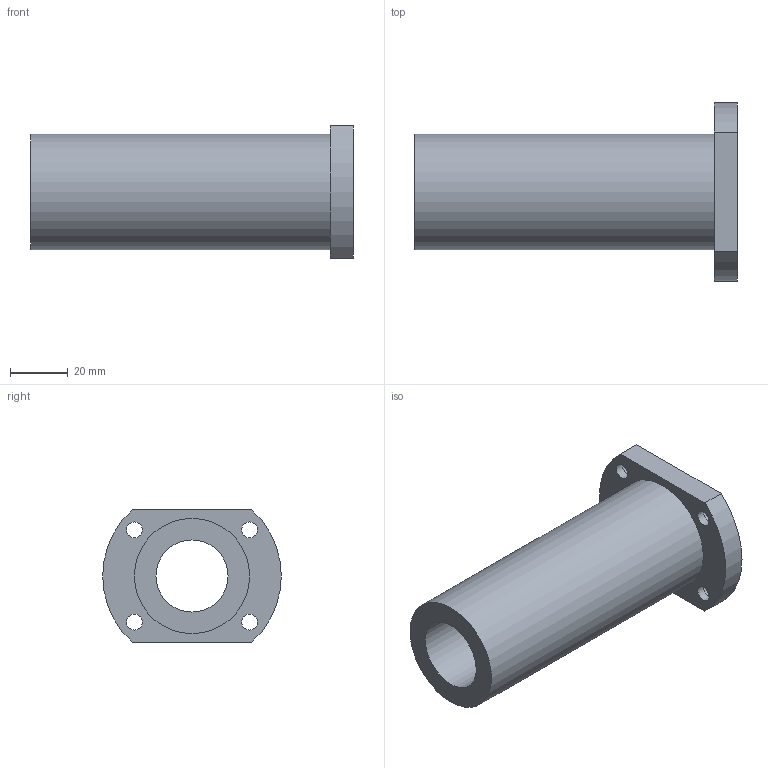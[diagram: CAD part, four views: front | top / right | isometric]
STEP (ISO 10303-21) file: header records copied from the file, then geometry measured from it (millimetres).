
FILE_DESCRIPTION(/* description */ ('Unknown'),/* implementation_level */ '2;1');
FILE_NAME(/* name */ 'LMH25LUU',/* time_stamp */ '2025-02-04T10:32:22+08:00',/* author */ ('Unknown'),/* organization */ ('Unknown'),/* preprocessor_version */ 'ST-DEVELOPER v18.102',/* originating_system */ 'Solid Edge',/* authorisation */ 'Unknown');
FILE_SCHEMA (('AUTOMOTIVE_DESIGN {1 0 10303 214 3 1 1}'));
Length unit declared in the file: millimetre
Products named in the file (1): LMH25LUU
Bounding box: 112 x 62 x 46 mm (x, y, z)
Volume: 94641.3 mm3; surface area: 28090.9 mm2
Topology: 1 solids, 1 shells, 21 faces, 42 edges, 28 vertices
Faces by surface type: cylinder 12, plane 9
Full cylindrical faces by diameter (mm): 5.5 x4, 9 x4, 25 x1, 40 x1
Entity records: 560 total; most frequent: DIRECTION 100, CARTESIAN_POINT 82, ORIENTED_EDGE 64, EDGE_LOOP 46, FACE_BOUND 46, AXIS2_PLACEMENT_3D 46, EDGE_CURVE 32, VERTEX_POINT 28
